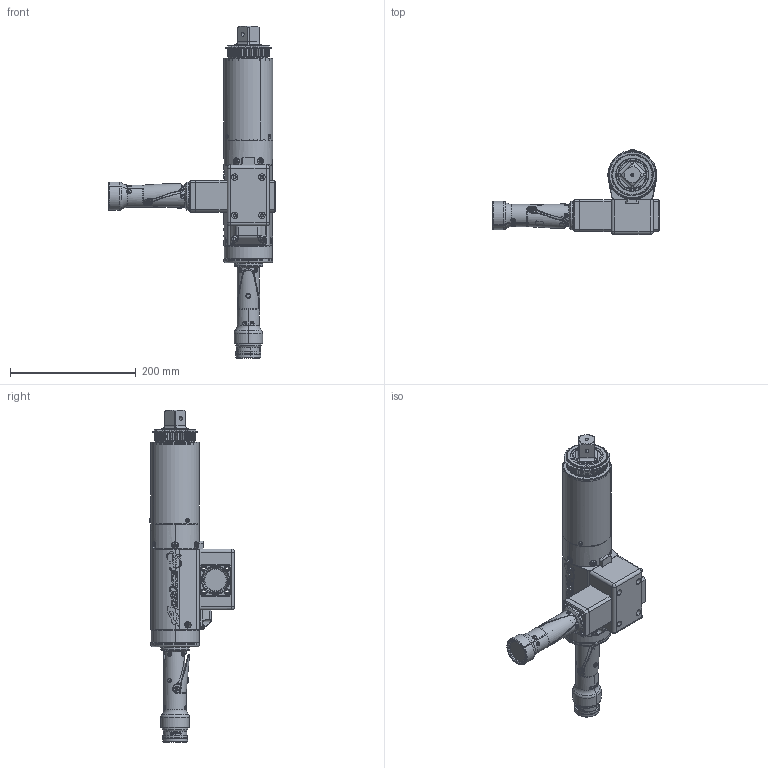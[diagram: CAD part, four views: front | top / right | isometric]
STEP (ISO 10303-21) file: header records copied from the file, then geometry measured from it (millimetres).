
FILE_DESCRIPTION (( 'STEP AP214' ), '1' );
FILE_NAME ('AES4B772500BDLR.STEP', '2022-07-15T18:28:34', ( '' ), ( '' ), 'SwSTEP 2.0', 'SolidWorks 2022', '' );
FILE_SCHEMA (( 'AUTOMOTIVE_DESIGN' ));
Length unit declared in the file: inch
Products named in the file (1): AES4B772500BDLR
Bounding box: 264.78 x 135.01 x 527.73 mm (x, y, z)
Surface area: 266430.6 mm2 (no closed solid volume)
Topology: 0 solids, 157 shells, 1637 faces, 6288 edges, 4569 vertices
Faces by surface type: cylinder 506, plane 457, cone 225, bspline 219, torus 216, sphere 14
Entity records: 151496 total; most frequent: CARTESIAN_POINT 82677, ORIENTED_EDGE 9430, DIRECTION 8765, EDGE_CURVE 6282, VERTEX_POINT 4569, AXIS2_PLACEMENT_3D 3326, VECTOR 2113, LINE 2113
